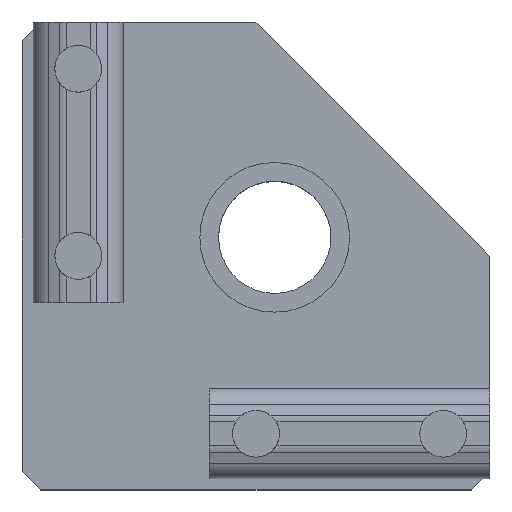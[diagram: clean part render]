
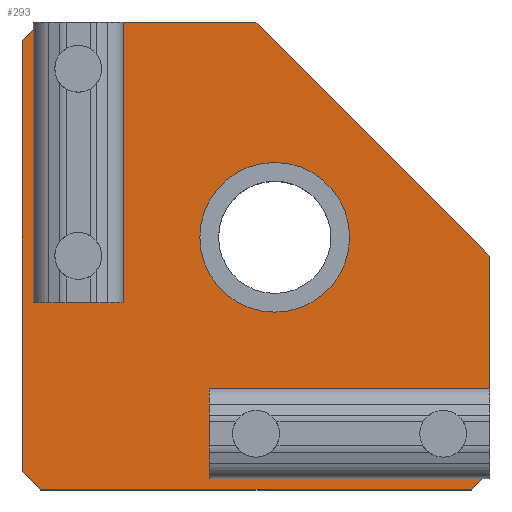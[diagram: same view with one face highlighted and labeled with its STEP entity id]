
A CAD part, top view. The second image highlights one B-rep face of the part: STEP entity #293.
In plain terms, the highlighted planar face has unit normal (0, 0, 1).
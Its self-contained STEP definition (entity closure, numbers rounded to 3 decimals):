
#293=ADVANCED_FACE('',(#530,#531,#532,#533,#534,#535),#536,.T.);
#530=FACE_BOUND('',#784,.T.);
#531=FACE_BOUND('',#785,.T.);
#532=FACE_BOUND('',#786,.T.);
#533=FACE_BOUND('',#787,.T.);
#534=FACE_BOUND('',#788,.T.);
#535=FACE_OUTER_BOUND('',#789,.T.);
#536=PLANE('',#790);
#784=EDGE_LOOP('',(#1112));
#785=EDGE_LOOP('',(#1113));
#786=EDGE_LOOP('',(#1114));
#787=EDGE_LOOP('',(#1115));
#788=EDGE_LOOP('',(#1116));
#789=EDGE_LOOP('',(#1117,#1118,#1119,#1120,#1121,#1122,#1123,#1124));
#790=AXIS2_PLACEMENT_3D('',#1125,#1126,#1127);
#1112=ORIENTED_EDGE('',*,*,#1620,.T.);
#1113=ORIENTED_EDGE('',*,*,#1621,.T.);
#1114=ORIENTED_EDGE('',*,*,#1622,.T.);
#1115=ORIENTED_EDGE('',*,*,#1623,.T.);
#1116=ORIENTED_EDGE('',*,*,#1624,.T.);
#1117=ORIENTED_EDGE('',*,*,#1625,.T.);
#1118=ORIENTED_EDGE('',*,*,#1626,.T.);
#1119=ORIENTED_EDGE('',*,*,#1627,.T.);
#1120=ORIENTED_EDGE('',*,*,#1628,.T.);
#1121=ORIENTED_EDGE('',*,*,#1629,.T.);
#1122=ORIENTED_EDGE('',*,*,#1630,.T.);
#1123=ORIENTED_EDGE('',*,*,#1631,.T.);
#1124=ORIENTED_EDGE('',*,*,#1632,.T.);
#1125=CARTESIAN_POINT('',(0.0,0.0,20.0));
#1126=DIRECTION('',(0.0,0.0,1.0));
#1127=DIRECTION('',(1.0,0.0,0.0));
#1620=EDGE_CURVE('',#1878,#1878,#1879,.T.);
#1621=EDGE_CURVE('',#1880,#1880,#1881,.T.);
#1622=EDGE_CURVE('',#1882,#1882,#1883,.T.);
#1623=EDGE_CURVE('',#1884,#1884,#1885,.T.);
#1624=EDGE_CURVE('',#1886,#1886,#1887,.T.);
#1625=EDGE_CURVE('',#1888,#1889,#1890,.T.);
#1626=EDGE_CURVE('',#1889,#1891,#1892,.T.);
#1627=EDGE_CURVE('',#1891,#1893,#1894,.T.);
#1628=EDGE_CURVE('',#1893,#1895,#1896,.T.);
#1629=EDGE_CURVE('',#1895,#1897,#1898,.T.);
#1630=EDGE_CURVE('',#1897,#1899,#1900,.T.);
#1631=EDGE_CURVE('',#1899,#1901,#1902,.T.);
#1632=EDGE_CURVE('',#1901,#1888,#1903,.T.);
#1878=VERTEX_POINT('',#2246);
#1879=CIRCLE('',#2247,8.0);
#1880=VERTEX_POINT('',#2248);
#1881=CIRCLE('',#2249,2.75);
#1882=VERTEX_POINT('',#2250);
#1883=CIRCLE('',#2251,2.75);
#1884=VERTEX_POINT('',#2252);
#1885=CIRCLE('',#2253,2.75);
#1886=VERTEX_POINT('',#2254);
#1887=CIRCLE('',#2255,2.75);
#1888=VERTEX_POINT('',#2256);
#1889=VERTEX_POINT('',#2257);
#1890=LINE('',#2258,#2259);
#1891=VERTEX_POINT('',#2260);
#1892=LINE('',#2261,#2262);
#1893=VERTEX_POINT('',#2263);
#1894=LINE('',#2264,#2265);
#1895=VERTEX_POINT('',#2266);
#1896=LINE('',#2267,#2268);
#1897=VERTEX_POINT('',#2269);
#1898=LINE('',#2270,#2271);
#1899=VERTEX_POINT('',#2272);
#1900=LINE('',#2273,#2274);
#1901=VERTEX_POINT('',#2275);
#1902=LINE('',#2276,#2277);
#1903=LINE('',#2278,#2279);
#2246=CARTESIAN_POINT('',(35.0,27.0,20.0));
#2247=AXIS2_PLACEMENT_3D('',#2686,#2687,#2688);
#2248=CARTESIAN_POINT('',(3.25,45.0,20.0));
#2249=AXIS2_PLACEMENT_3D('',#2689,#2690,#2691);
#2250=CARTESIAN_POINT('',(42.25,6.0,20.0));
#2251=AXIS2_PLACEMENT_3D('',#2692,#2693,#2694);
#2252=CARTESIAN_POINT('',(22.25,6.0,20.0));
#2253=AXIS2_PLACEMENT_3D('',#2695,#2696,#2697);
#2254=CARTESIAN_POINT('',(3.25,25.0,20.0));
#2255=AXIS2_PLACEMENT_3D('',#2698,#2699,#2700);
#2256=CARTESIAN_POINT('',(2.0,50.0,20.0));
#2257=CARTESIAN_POINT('',(0.0,48.0,20.0));
#2258=CARTESIAN_POINT('',(2.0,50.0,20.0));
#2259=VECTOR('',#2701,1.0);
#2260=CARTESIAN_POINT('',(0.0,2.0,20.0));
#2261=CARTESIAN_POINT('',(0.0,48.0,20.0));
#2262=VECTOR('',#2702,1.0);
#2263=CARTESIAN_POINT('',(2.0,0.,20.0));
#2264=CARTESIAN_POINT('',(0.0,2.0,20.0));
#2265=VECTOR('',#2703,1.0);
#2266=CARTESIAN_POINT('',(48.0,0.,20.0));
#2267=CARTESIAN_POINT('',(2.0,0.,20.0));
#2268=VECTOR('',#2704,1.0);
#2269=CARTESIAN_POINT('',(50.0,2.0,20.0));
#2270=CARTESIAN_POINT('',(48.0,0.,20.0));
#2271=VECTOR('',#2705,1.0);
#2272=CARTESIAN_POINT('',(50.0,25.0,20.0));
#2273=CARTESIAN_POINT('',(50.0,2.0,20.0));
#2274=VECTOR('',#2706,1.0);
#2275=CARTESIAN_POINT('',(25.0,50.0,20.0));
#2276=CARTESIAN_POINT('',(50.0,25.0,20.0));
#2277=VECTOR('',#2707,1.0);
#2278=CARTESIAN_POINT('',(25.0,50.0,20.0));
#2279=VECTOR('',#2708,1.0);
#2686=CARTESIAN_POINT('',(27.0,27.0,20.0));
#2687=DIRECTION('',(0.0,0.0,-1.0));
#2688=DIRECTION('',(1.0,0.0,0.0));
#2689=CARTESIAN_POINT('',(6.0,45.0,20.0));
#2690=DIRECTION('',(0.0,0.0,-1.0));
#2691=DIRECTION('',(-1.0,0.0,0.0));
#2692=CARTESIAN_POINT('',(45.0,6.0,20.0));
#2693=DIRECTION('',(0.0,0.0,-1.0));
#2694=DIRECTION('',(-1.0,0.0,0.0));
#2695=CARTESIAN_POINT('',(25.0,6.0,20.0));
#2696=DIRECTION('',(0.0,0.0,-1.0));
#2697=DIRECTION('',(-1.0,0.0,0.0));
#2698=CARTESIAN_POINT('',(6.0,25.0,20.0));
#2699=DIRECTION('',(0.0,0.0,-1.0));
#2700=DIRECTION('',(-1.0,0.0,0.0));
#2701=DIRECTION('',(-0.707,-0.707,0.0));
#2702=DIRECTION('',(0.0,-1.0,0.0));
#2703=DIRECTION('',(0.707,-0.707,0.0));
#2704=DIRECTION('',(1.0,0.0,0.0));
#2705=DIRECTION('',(0.707,0.707,0.0));
#2706=DIRECTION('',(0.0,1.0,0.0));
#2707=DIRECTION('',(-0.707,0.707,0.0));
#2708=DIRECTION('',(-1.0,0.0,0.0));
